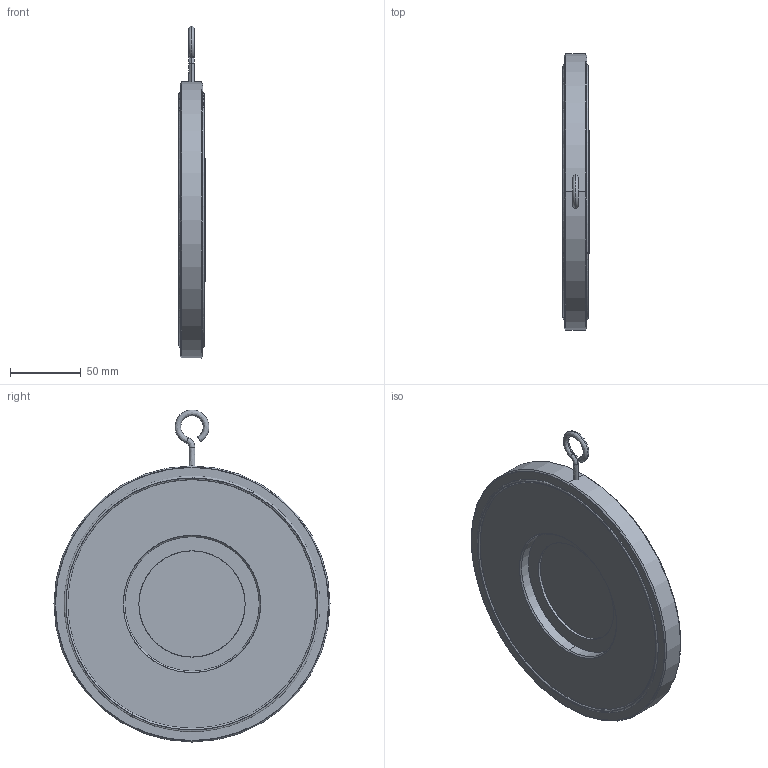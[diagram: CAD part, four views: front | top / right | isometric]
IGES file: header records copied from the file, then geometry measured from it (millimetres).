
Start section: SolidWorks IGES file using analytic representation for surfaces
Global section: file name: C:\Users\Administrator\Desktop\temp\0.IGS; native system: SolidWorks 2015; preprocessor: SolidWorks 2015; author: Administrator; date: 170404.091305; units: millimetre
Bounding box: 18.5 x 195 x 234.5 mm (x, y, z)
Surface area: 110492.4 mm2 (no closed solid volume)
Topology: 0 solids, 0 shells, 180 faces, 3038 edges, 3036 vertices
Faces by surface type: bspline 110, revolution 70
